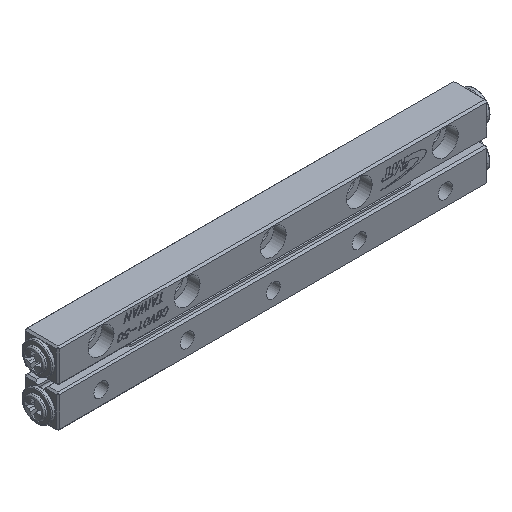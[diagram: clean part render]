
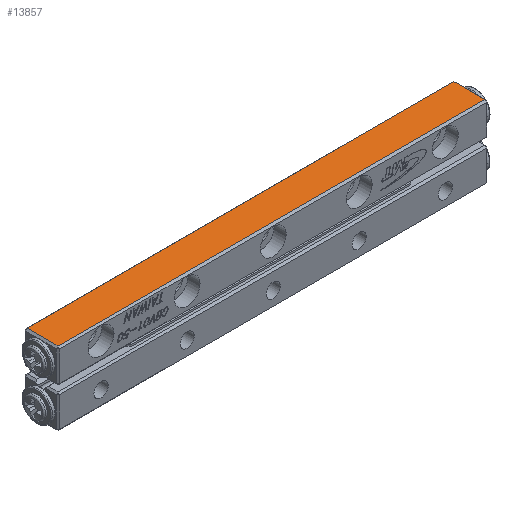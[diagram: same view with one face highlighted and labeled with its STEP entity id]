
A CAD part, isometric view. The second image highlights one B-rep face of the part: STEP entity #13857.
In plain terms, the highlighted planar face has unit normal (0, 0, 1) as drawn and (0, 0, -1) by its records, which use the part's own axes.
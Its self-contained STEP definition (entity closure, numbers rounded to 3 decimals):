
#177 = EDGE_CURVE ( 'NONE', #6411, #11692, #1015, .T. ) ;
#777 = VECTOR ( 'NONE', #7383, 1000. ) ;
#1015 = LINE ( 'NONE', #5486, #11980 ) ;
#1155 = LINE ( 'NONE', #17273, #777 ) ;
#1326 = ORIENTED_EDGE ( 'NONE', *, *, #9492, .T. ) ;
#1871 = VECTOR ( 'NONE', #5431, 1000. ) ;
#2320 = CARTESIAN_POINT ( 'NONE',  ( -24.8, 2., 0. ) ) ;
#2410 = LINE ( 'NONE', #2320, #1871 ) ;
#3334 = VERTEX_POINT ( 'NONE', #6677 ) ;
#3558 = FACE_OUTER_BOUND ( 'NONE', #5336, .T. ) ;
#4269 = EDGE_CURVE ( 'NONE', #3334, #6411, #14783, .T. ) ;
#4419 = CARTESIAN_POINT ( 'NONE',  ( -24.8, -1.8, 0. ) ) ;
#4533 = CARTESIAN_POINT ( 'NONE',  ( -24.8, 1.8, 0. ) ) ;
#5336 = EDGE_LOOP ( 'NONE', ( #12819, #6534, #17831, #1326 ) ) ;
#5431 = DIRECTION ( 'NONE',  ( 0., 1., 0. ) ) ;
#5486 = CARTESIAN_POINT ( 'NONE',  ( -25., -1.8, 0. ) ) ;
#6411 = VERTEX_POINT ( 'NONE', #7160 ) ;
#6534 = ORIENTED_EDGE ( 'NONE', *, *, #4269, .T. ) ;
#6677 = CARTESIAN_POINT ( 'NONE',  ( 24.8, 1.8, 0. ) ) ;
#6898 = AXIS2_PLACEMENT_3D ( 'NONE', #9204, #8029, #7935 ) ;
#7160 = CARTESIAN_POINT ( 'NONE',  ( 24.8, -1.8, 0. ) ) ;
#7383 = DIRECTION ( 'NONE',  ( 1., 0., 0. ) ) ;
#7935 = DIRECTION ( 'NONE',  ( 0., 1., 0. ) ) ;
#8029 = DIRECTION ( 'NONE',  ( 0., 0., -1. ) ) ;
#8791 = CARTESIAN_POINT ( 'NONE',  ( 24.8, -2., 0. ) ) ;
#9204 = CARTESIAN_POINT ( 'NONE',  ( -25., -2., 0. ) ) ;
#9405 = PLANE ( 'NONE',  #6898 ) ;
#9492 = EDGE_CURVE ( 'NONE', #11692, #12706, #2410, .T. ) ;
#9782 = DIRECTION ( 'NONE',  ( -1., 0., 0. ) ) ;
#11692 = VERTEX_POINT ( 'NONE', #4419 ) ;
#11980 = VECTOR ( 'NONE', #9782, 1000. ) ;
#12706 = VERTEX_POINT ( 'NONE', #4533 ) ;
#12819 = ORIENTED_EDGE ( 'NONE', *, *, #19011, .T. ) ;
#13528 = DIRECTION ( 'NONE',  ( 0., -1., 0. ) ) ;
#13857 = ADVANCED_FACE ( 'NONE', ( #3558 ), #9405, .T. ) ;
#14783 = LINE ( 'NONE', #8791, #16709 ) ;
#16709 = VECTOR ( 'NONE', #13528, 1000. ) ;
#17273 = CARTESIAN_POINT ( 'NONE',  ( -25., 1.8, 0. ) ) ;
#17831 = ORIENTED_EDGE ( 'NONE', *, *, #177, .T. ) ;
#19011 = EDGE_CURVE ( 'NONE', #12706, #3334, #1155, .T. ) ;
